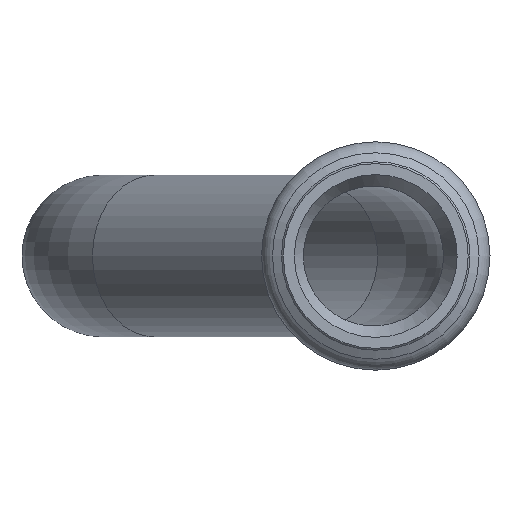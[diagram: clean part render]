
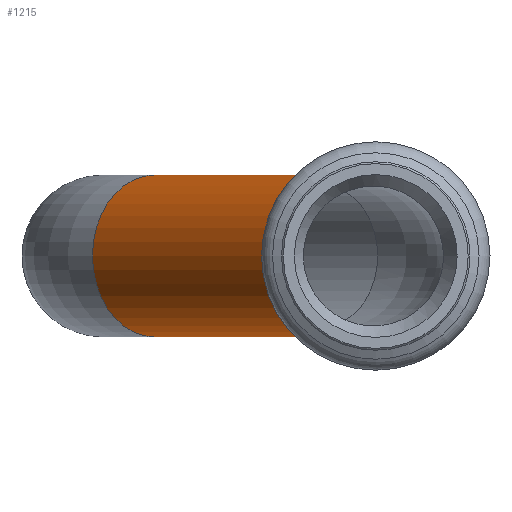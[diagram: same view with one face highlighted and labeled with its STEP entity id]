
A CAD part, left-side view. The second image highlights one B-rep face of the part: STEP entity #1215.
In plain terms, the highlighted cylindrical face has radius 11 mm (diameter 22 mm), a full revolution.
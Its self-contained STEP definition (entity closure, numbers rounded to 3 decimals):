
#1184=CARTESIAN_POINT('',(-53.875,15.445,0.));
#1185=VERTEX_POINT('',#1184);
#1186=CARTESIAN_POINT('',(-46.804,7.019,0.0));
#1187=DIRECTION('',(0.766,0.643,0.0));
#1188=DIRECTION('',(0.643,-0.766,0.0));
#1189=AXIS2_PLACEMENT_3D('',#1186,#1187,#1188);
#1190=CIRCLE('',#1189,11.);
#1191=EDGE_CURVE('',#1185,#1185,#1190,.T.);
#1196=CARTESIAN_POINT('',(-19.284,30.111,0.0));
#1197=DIRECTION('',(-0.766,-0.643,0.0));
#1198=DIRECTION('',(0.643,-0.766,0.0));
#1199=AXIS2_PLACEMENT_3D('',#1196,#1197,#1198);
#1200=CYLINDRICAL_SURFACE('',#1199,11.);
#1201=ORIENTED_EDGE('',*,*,#1191,.T.);
#1202=EDGE_LOOP('',(#1201));
#1203=FACE_OUTER_BOUND('',#1202,.T.);
#1204=CARTESIAN_POINT('',(-26.354,38.538,0.));
#1205=VERTEX_POINT('',#1204);
#1206=CARTESIAN_POINT('',(-19.284,30.111,0.0));
#1207=DIRECTION('',(0.766,0.643,0.0));
#1208=DIRECTION('',(0.643,-0.766,0.0));
#1209=AXIS2_PLACEMENT_3D('',#1206,#1207,#1208);
#1210=CIRCLE('',#1209,11.);
#1211=EDGE_CURVE('',#1205,#1205,#1210,.T.);
#1212=ORIENTED_EDGE('',*,*,#1211,.F.);
#1213=EDGE_LOOP('',(#1212));
#1214=FACE_BOUND('',#1213,.T.);
#1215=ADVANCED_FACE('',(#1203,#1214),#1200,.T.);
